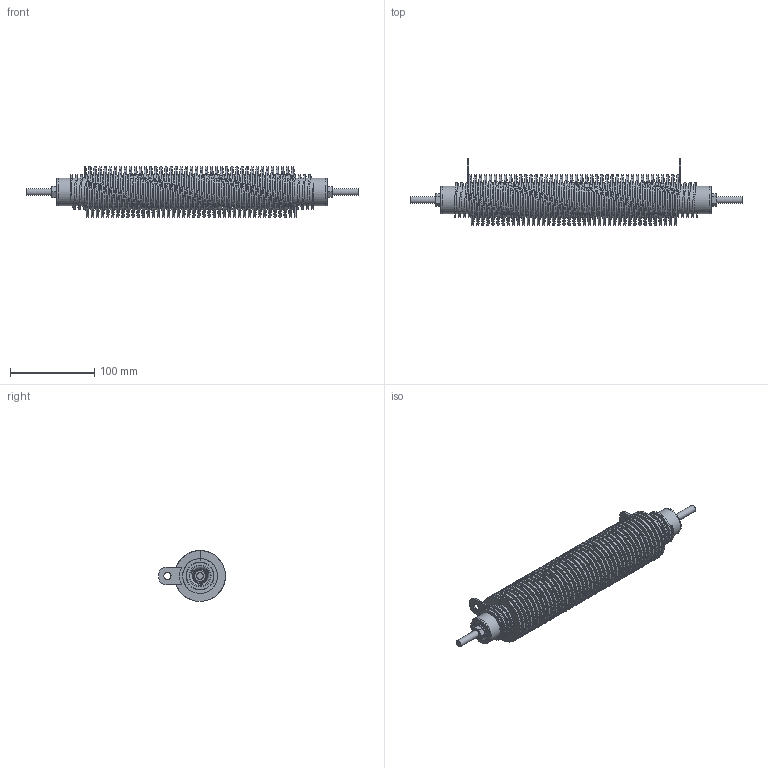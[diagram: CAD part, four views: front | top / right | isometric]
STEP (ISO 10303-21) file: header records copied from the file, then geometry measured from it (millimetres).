
FILE_DESCRIPTION(/* description */ (''),/* implementation_level */ '2;1');
FILE_NAME(/* name */ 'C:\_Vault\Dati\CATALOGO\RNT\RNT TUBO FILETTATO\RNT 700.stp',/* time_stamp */ '2023-05-16T14:56:28+02:00',/* author */ ('claudio'),/* organization */ ('Fairfild Srl'),/* preprocessor_version */ 'ST-DEVELOPER v18.1',/* originating_system */ 'Autodesk Inventor 2022',/* authorisation */ '');
FILE_SCHEMA (('AUTOMOTIVE_DESIGN { 1 0 10303 214 3 1 1 }'));
Length unit declared in the file: millimetre
Products named in the file (9): RNT 700; 70NT26D041317000SX-02; 550053001500200000; 84NP70F8M500200000; 740070D04000000000; 28M008000A28800000; 600008000A29200030; 600008000A25100032; 06M008000A27500000
Assembly tree (13 placements, depth 2):
  RNT 700
    70NT26D041317000SX-02
    550053001500200000
    84NP70F8M500200000  x2
    740070D04000000000  x2
    28M008000A28800000  x2
    600008000A29200030  x2
    600008000A25100032  x2
    06M008000A27500000
Bounding box: 393 x 79 x 60 mm (x, y, z)
Volume: 399489.1 mm3; surface area: 296553.6 mm2
Topology: 13 solids, 13 shells, 333 faces, 916 edges, 601 vertices
Faces by surface type: cylinder 227, plane 54, cone 30, torus 16, bspline 6
Full cylindrical faces by diameter (mm): 5 x6, 6.647 x2, 8 x1, 8.4 x2, 8.5 x2, 8.6 x2, 17 x2, 20 x1, 32.2 x2, 33 x48, 36 x41, 41 x47, 60 x41
Entity records: 24357 total; most frequent: CARTESIAN_POINT 17737, ORIENTED_EDGE 1492, DIRECTION 986, EDGE_CURVE 746, VERTEX_POINT 492, B_SPLINE_CURVE_WITH_KNOTS 391, AXIS2_PLACEMENT_3D 373, EDGE_LOOP 278
